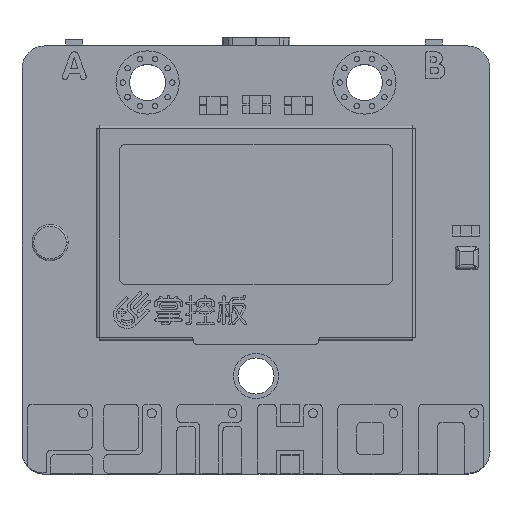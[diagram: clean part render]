
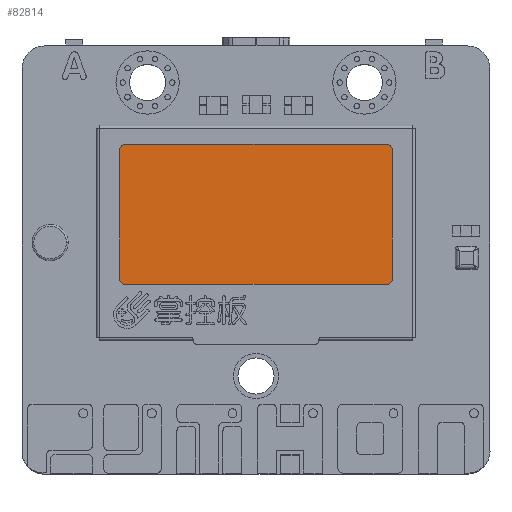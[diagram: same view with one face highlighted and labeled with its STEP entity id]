
A CAD part, top view. The second image highlights one B-rep face of the part: STEP entity #82814.
In plain terms, the highlighted planar face has unit normal (0, 0, 1).
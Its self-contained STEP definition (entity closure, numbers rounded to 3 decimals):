
#38386=DIRECTION('',(0.,1.,0.));
#38387=VECTOR('',#38386,23.2);
#38388=CARTESIAN_POINT('',(17.35,-8.606,2.6));
#38389=LINE('',#38388,#38387);
#38393=DIRECTION('',(1.,0.,0.));
#38394=VECTOR('',#38393,10.35);
#38395=CARTESIAN_POINT('',(7.,-8.606,2.6));
#38396=LINE('',#38395,#38394);
#38400=DIRECTION('',(0.174,0.985,0.));
#38401=VECTOR('',#38400,0.459);
#38402=CARTESIAN_POINT('',(6.92,-9.058,2.6));
#38403=LINE('',#38402,#38401);
#38407=CARTESIAN_POINT('',(6.625,-9.006,2.6));
#38408=DIRECTION('',(0.,0.,1.));
#38409=DIRECTION('',(0.,-1.,0.));
#38410=AXIS2_PLACEMENT_3D('',#38407,#38408,#38409);
#38415=DIRECTION('',(1.,0.,0.));
#38416=VECTOR('',#38415,13.25);
#38417=CARTESIAN_POINT('',(-6.625,-9.306,2.6));
#38418=LINE('',#38417,#38416);
#38422=CARTESIAN_POINT('',(-6.625,-9.006,2.6));
#38423=DIRECTION('',(0.,0.,1.));
#38424=DIRECTION('',(-0.985,-0.174,0.));
#38425=AXIS2_PLACEMENT_3D('',#38422,#38423,#38424);
#38430=DIRECTION('',(0.174,-0.985,0.));
#38431=VECTOR('',#38430,0.459);
#38432=CARTESIAN_POINT('',(-7.,-8.606,2.6));
#38433=LINE('',#38432,#38431);
#38437=DIRECTION('',(1.,0.,0.));
#38438=VECTOR('',#38437,10.35);
#38439=CARTESIAN_POINT('',(-17.35,-8.606,2.6));
#38440=LINE('',#38439,#38438);
#38444=DIRECTION('',(0.,-1.,0.));
#38445=VECTOR('',#38444,23.2);
#38446=CARTESIAN_POINT('',(-17.35,14.594,2.6));
#38447=LINE('',#38446,#38445);
#38451=DIRECTION('',(-1.,0.,0.));
#38452=VECTOR('',#38451,34.7);
#38453=CARTESIAN_POINT('',(17.35,14.594,2.6));
#38454=LINE('',#38453,#38452);
#42274=CARTESIAN_POINT('',(17.35,-8.606,2.6));
#42275=CARTESIAN_POINT('',(17.35,14.594,2.6));
#42276=VERTEX_POINT('',#42274);
#42277=VERTEX_POINT('',#42275);
#42278=CARTESIAN_POINT('',(-17.35,14.594,2.6));
#42279=VERTEX_POINT('',#42278);
#42280=CARTESIAN_POINT('',(-17.35,-8.606,2.6));
#42281=VERTEX_POINT('',#42280);
#42282=CARTESIAN_POINT('',(-7.,-8.606,2.6));
#42283=VERTEX_POINT('',#42282);
#42284=CARTESIAN_POINT('',(-6.92,-9.058,2.6));
#42285=VERTEX_POINT('',#42284);
#42286=CARTESIAN_POINT('',(-6.625,-9.306,2.6));
#42287=VERTEX_POINT('',#42286);
#42288=CARTESIAN_POINT('',(6.625,-9.306,2.6));
#42289=VERTEX_POINT('',#42288);
#42290=CARTESIAN_POINT('',(6.92,-9.058,2.6));
#42291=VERTEX_POINT('',#42290);
#42292=CARTESIAN_POINT('',(7.,-8.606,2.6));
#42293=VERTEX_POINT('',#42292);
#82797=CARTESIAN_POINT('',(0.,0.,2.6));
#82798=DIRECTION('',(0.,0.,1.));
#82799=DIRECTION('',(1.,0.,0.));
#82800=AXIS2_PLACEMENT_3D('',#82797,#82798,#82799);
#82801=PLANE('',#82800);
#82802=ORIENTED_EDGE('',*,*,#82665,.F.);
#82803=ORIENTED_EDGE('',*,*,#82680,.F.);
#82804=ORIENTED_EDGE('',*,*,#82694,.F.);
#82805=ORIENTED_EDGE('',*,*,#82708,.F.);
#82806=ORIENTED_EDGE('',*,*,#82722,.F.);
#82807=ORIENTED_EDGE('',*,*,#82736,.F.);
#82808=ORIENTED_EDGE('',*,*,#82750,.F.);
#82809=ORIENTED_EDGE('',*,*,#82764,.F.);
#82810=ORIENTED_EDGE('',*,*,#82778,.F.);
#82811=ORIENTED_EDGE('',*,*,#82791,.F.);
#82812=EDGE_LOOP('',(#82802,#82803,#82804,#82805,#82806,#82807,#82808,#82809,
#82810,#82811));
#82813=FACE_OUTER_BOUND('',#82812,.F.);
#38411=CIRCLE('',#38410,0.3);
#38426=CIRCLE('',#38425,0.3);
#82665=EDGE_CURVE('',#42276,#42277,#38389,.T.);
#82680=EDGE_CURVE('',#42293,#42276,#38396,.T.);
#82694=EDGE_CURVE('',#42291,#42293,#38403,.T.);
#82708=EDGE_CURVE('',#42289,#42291,#38411,.T.);
#82722=EDGE_CURVE('',#42287,#42289,#38418,.T.);
#82736=EDGE_CURVE('',#42285,#42287,#38426,.T.);
#82750=EDGE_CURVE('',#42283,#42285,#38433,.T.);
#82764=EDGE_CURVE('',#42281,#42283,#38440,.T.);
#82778=EDGE_CURVE('',#42279,#42281,#38447,.T.);
#82791=EDGE_CURVE('',#42277,#42279,#38454,.T.);
#82814=ADVANCED_FACE('',(#82813),#82801,.T.);
